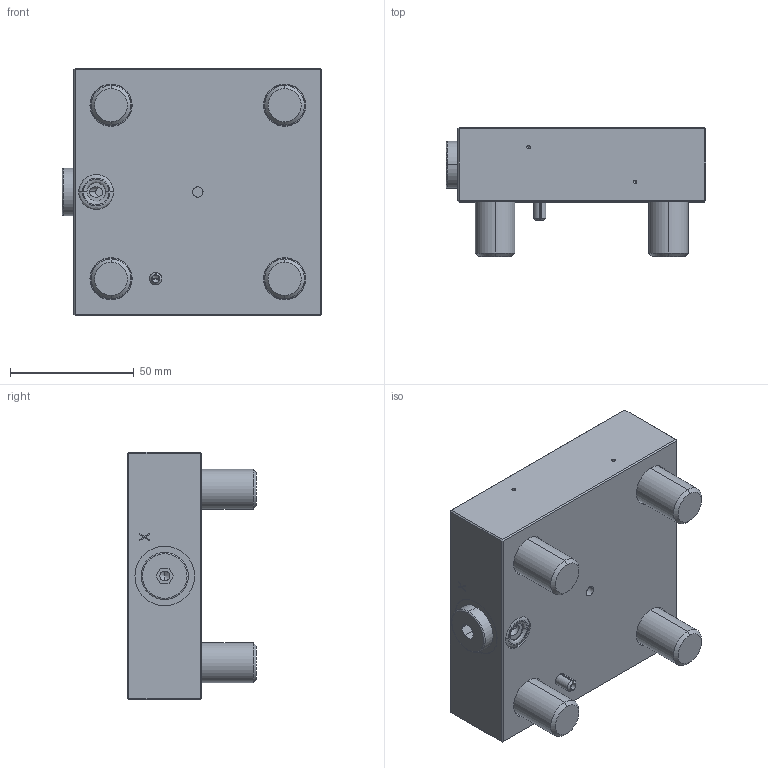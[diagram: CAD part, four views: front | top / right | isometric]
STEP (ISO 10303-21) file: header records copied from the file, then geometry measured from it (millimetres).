
FILE_DESCRIPTION (( 'STEP AP214' ), '1' );
FILE_NAME ('D32410.STEP', '2017-03-17T14:56:35', ( '' ), ( '' ), 'SwSTEP 2.0', 'SolidWorks 2016', '' );
FILE_SCHEMA (( 'AUTOMOTIVE_DESIGN' ));
Length unit declared in the file: millimetre
Products named in the file (1): D32410
Bounding box: 104.7 x 52 x 100 mm (x, y, z)
Volume: 302693.4 mm3; surface area: 57322.7 mm2
Topology: 8 solids, 9 shells, 247 faces, 542 edges, 320 vertices
Faces by surface type: plane 125, cylinder 66, cone 30, torus 18, bspline 8
Entity records: 9502 total; most frequent: CARTESIAN_POINT 1250, DIRECTION 1206, ORIENTED_EDGE 1052, EDGE_CURVE 526, AXIS2_PLACEMENT_3D 452, VERTEX_POINT 320, VECTOR 302, LINE 302
